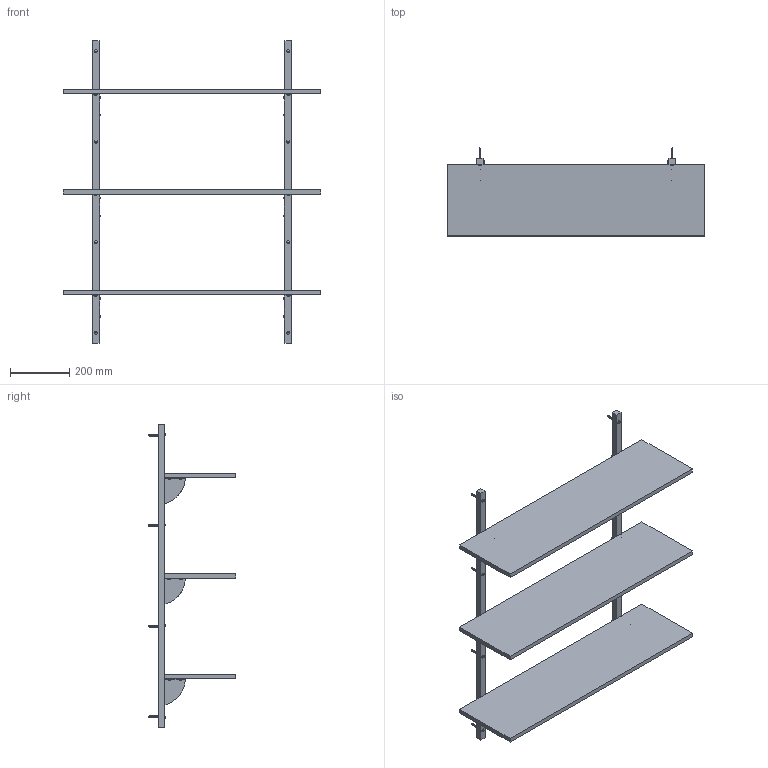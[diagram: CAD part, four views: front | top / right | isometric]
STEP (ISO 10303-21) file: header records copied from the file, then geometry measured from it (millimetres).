
FILE_DESCRIPTION(/* description */ (''),/* implementation_level */ '2;1');
FILE_NAME(/* name */ 'SHZAK9~Y',/* time_stamp */ '2020-03-27T15:27:24+01:00',/* author */ (''),/* organization */ (''),/* preprocessor_version */ 'ST-DEVELOPER v16.5',/* originating_system */ '',/* authorisation */ '');
FILE_SCHEMA (('AUTOMOTIVE_DESIGN'));
Length unit declared in the file: millimetre
Products named in the file (1): Document
Bounding box: 870 x 296.06 x 1020 mm (x, y, z)
Volume: 10403490.3 mm3; surface area: 1652078.4 mm2
Topology: 89 solids, 281 shells, 760 faces, 2184 edges, 1612 vertices
Faces by surface type: plane 380, bspline 380
Entity records: 121166 total; most frequent: CARTESIAN_POINT 106443, ORIENTED_EDGE 3200, EDGE_CURVE 2032, VERTEX_POINT 1600, B_SPLINE_CURVE_WITH_KNOTS 1196, EDGE_LOOP 822, ADVANCED_FACE 760, FACE_OUTER_BOUND 760
